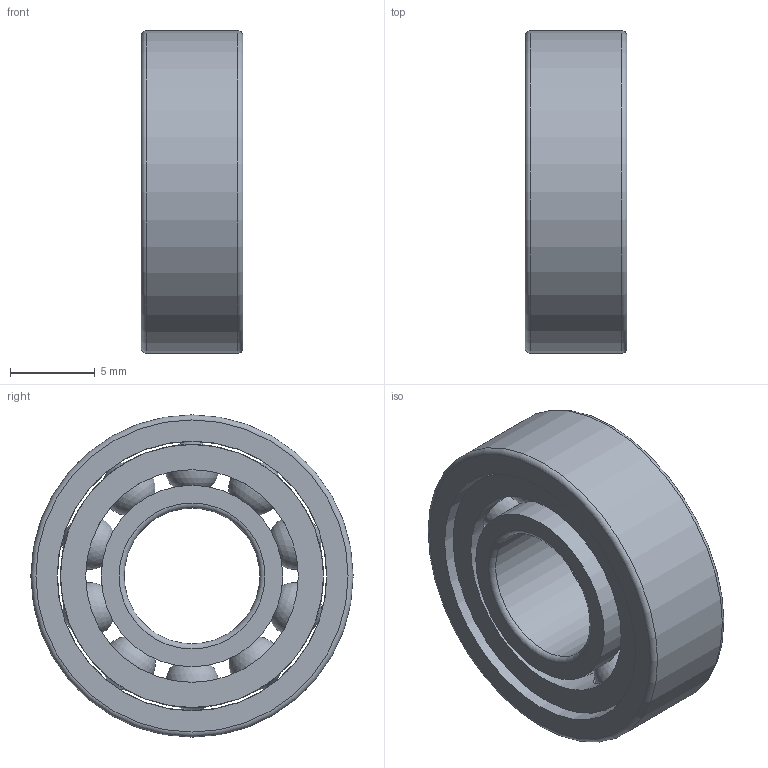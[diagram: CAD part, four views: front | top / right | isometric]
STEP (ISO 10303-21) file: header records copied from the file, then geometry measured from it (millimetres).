
FILE_DESCRIPTION(/* description */ (''),/* implementation_level */ '2;1');
FILE_NAME(/* name */ 'S_6198_TA.step',/* time_stamp */ '2013-03-06T14:46:41+01:00',/* author */ ('Marian'),/* organization */ ('GMN'),/* preprocessor_version */ 'ST-DEVELOPER v11',/* originating_system */ 'SIEMENS UGS NX 6.0',/* authorisation */ '');
FILE_SCHEMA (('CONFIG_CONTROL_DESIGN'));
Length unit declared in the file: millimetre
Products named in the file (1): S_6198_TA
Bounding box: 6 x 19 x 19 mm (x, y, z)
Volume: 1054 mm3; surface area: 2097.6 mm2
Topology: 13 solids, 13 shells, 40 faces, 98 edges, 62 vertices
Faces by surface type: cylinder 17, sphere 10, torus 6, plane 6, cone 1
Full cylindrical faces by diameter (mm): 3.375 x10, 8 x1, 10.7 x2, 12.535 x1, 15.5 x1, 15.9 x1, 19 x1
Entity records: 2038 total; most frequent: CARTESIAN_POINT 1271, DIRECTION 122, FACE_BOUND 90, EDGE_LOOP 80, ORIENTED_EDGE 80, AXIS2_PLACEMENT_3D 61, VERTEX_POINT 50, EDGE_CURVE 40
